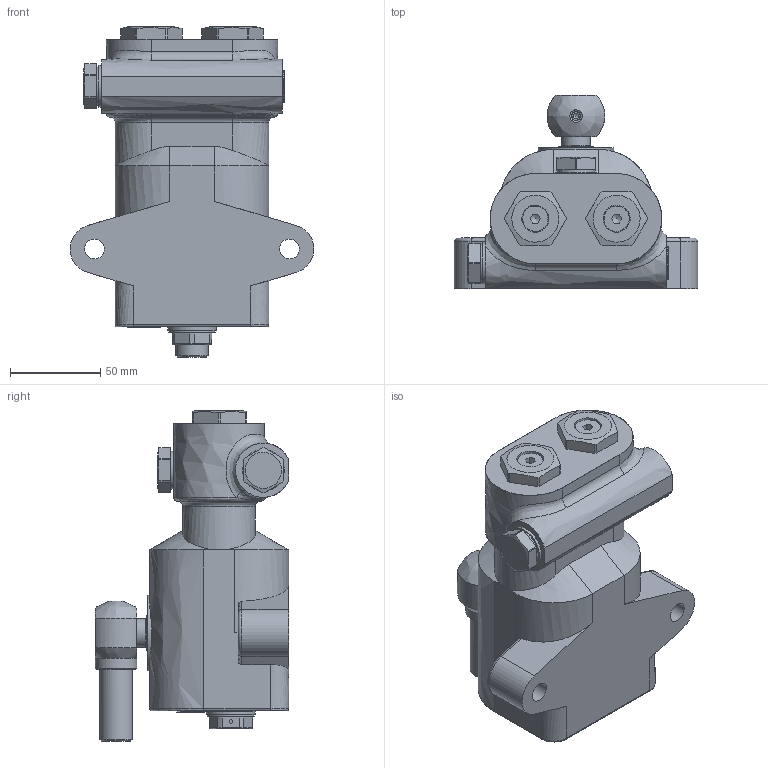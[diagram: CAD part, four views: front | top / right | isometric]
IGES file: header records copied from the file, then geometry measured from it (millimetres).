
Global section: file name: No Iges File Name specified; native system: Autodesk Inventor 2013; preprocessor: AutoDesk Inventor Iges Exporter R2013; author: christian.scardovi; date: 20240402.114730; units: millimetre
Bounding box: 134.96 x 107 x 183.1 mm (x, y, z)
Volume: 631746.8 mm3; surface area: 131078.8 mm2
Topology: 2 solids, 2 shells, 2076 faces, 5687 edges, 3721 vertices
Faces by surface type: bspline 2076
